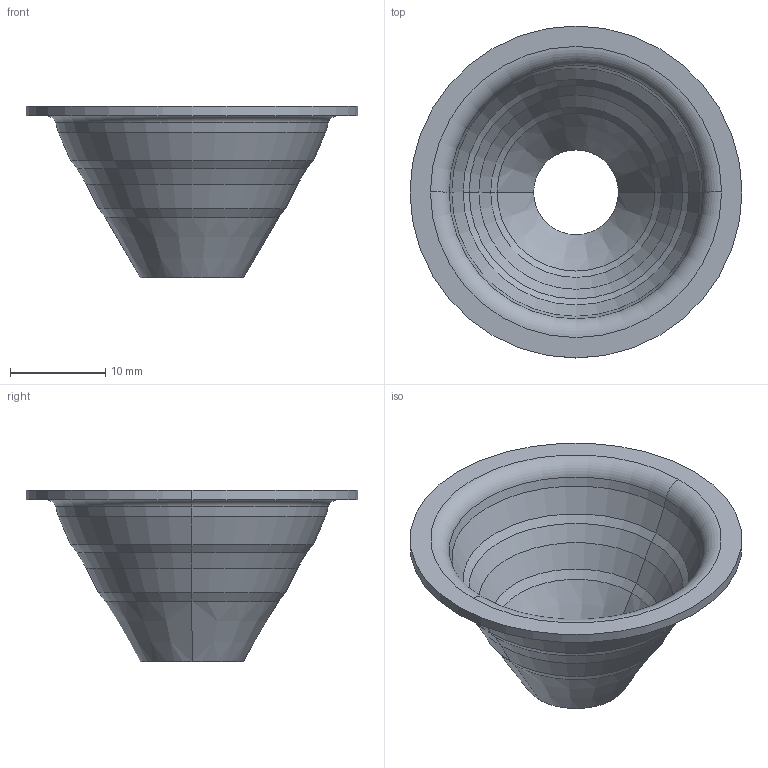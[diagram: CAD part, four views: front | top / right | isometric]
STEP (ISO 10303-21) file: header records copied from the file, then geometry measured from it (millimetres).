
FILE_DESCRIPTION (( 'STEP AP214' ), '1' );
FILE_NAME ('72718A.STEP', '2025-06-17T19:21:29', ( '' ), ( '' ), 'SwSTEP 2.0', 'SolidWorks 2024', '' );
FILE_SCHEMA (( 'AUTOMOTIVE_DESIGN' ));
Length unit declared in the file: inch
Products named in the file (1): 72718A
Bounding box: 34.92 x 34.92 x 18.03 mm (x, y, z)
Volume: 1551.8 mm3; surface area: 3194.7 mm2
Topology: 1 solids, 1 shells, 39 faces, 78 edges, 42 vertices
Faces by surface type: cone 28, cylinder 4, torus 4, plane 3
Entity records: 1029 total; most frequent: DIRECTION 204, CARTESIAN_POINT 160, ORIENTED_EDGE 156, AXIS2_PLACEMENT_3D 86, EDGE_CURVE 78, CIRCLE 46, EDGE_LOOP 42, VERTEX_POINT 42
